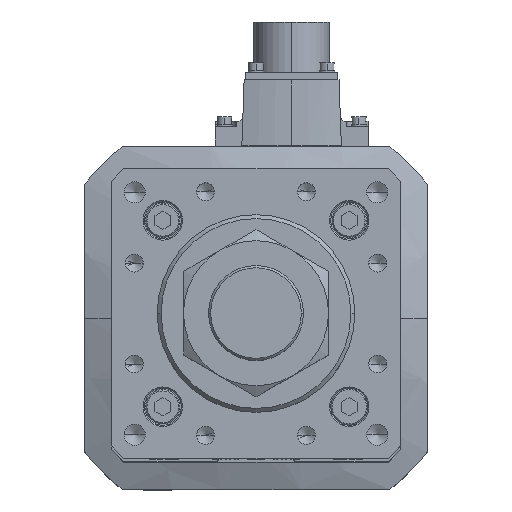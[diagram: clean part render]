
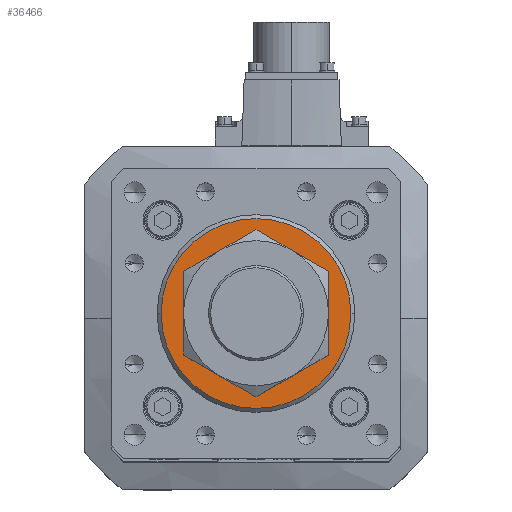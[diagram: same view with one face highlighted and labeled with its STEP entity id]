
A CAD part, top view. The second image highlights one B-rep face of the part: STEP entity #36466.
In plain terms, the highlighted planar face has unit normal (0, 0, 1).
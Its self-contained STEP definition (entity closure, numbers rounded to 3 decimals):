
#1332 = DIRECTION ( 'NONE',  ( 0., 0., 1. ) ) ;
#1584 = CARTESIAN_POINT ( 'NONE',  ( 0., 0., 746. ) ) ;
#2251 = DIRECTION ( 'NONE',  ( 0., 0., 1. ) ) ;
#4315 = VERTEX_POINT ( 'NONE', #14858 ) ;
#4653 = CIRCLE ( 'NONE', #24030, 36. ) ;
#4743 = DIRECTION ( 'NONE',  ( 1., 0., 0. ) ) ;
#4878 = DIRECTION ( 'NONE',  ( 0., 0., -1. ) ) ;
#7404 = DIRECTION ( 'NONE',  ( 1., 0., 0. ) ) ;
#7584 = CARTESIAN_POINT ( 'NONE',  ( 0., 0., 746. ) ) ;
#7668 = CARTESIAN_POINT ( 'NONE',  ( 23., 0., 746. ) ) ;
#8178 = DIRECTION ( 'NONE',  ( 1., 0., 0. ) ) ;
#8360 = EDGE_CURVE ( 'NONE', #11657, #4315, #22595, .T. ) ;
#9832 = AXIS2_PLACEMENT_3D ( 'NONE', #30743, #33387, #35946 ) ;
#11017 = CIRCLE ( 'NONE', #17847, 23. ) ;
#11657 = VERTEX_POINT ( 'NONE', #21497 ) ;
#12478 = EDGE_LOOP ( 'NONE', ( #26699, #23012 ) ) ;
#14153 = FACE_OUTER_BOUND ( 'NONE', #12478, .T. ) ;
#14586 = ORIENTED_EDGE ( 'NONE', *, *, #23966, .T. ) ;
#14858 = CARTESIAN_POINT ( 'NONE',  ( 36., 0., 746. ) ) ;
#15062 = CARTESIAN_POINT ( 'NONE',  ( 0., 0., 746. ) ) ;
#15913 = DIRECTION ( 'NONE',  ( 0., 0., 1. ) ) ;
#17525 = VERTEX_POINT ( 'NONE', #26873 ) ;
#17847 = AXIS2_PLACEMENT_3D ( 'NONE', #7584, #4878, #4743 ) ;
#20023 = FACE_BOUND ( 'NONE', #32261, .T. ) ;
#20565 = CIRCLE ( 'NONE', #9832, 23. ) ;
#20665 = AXIS2_PLACEMENT_3D ( 'NONE', #1584, #15913, #35955 ) ;
#21497 = CARTESIAN_POINT ( 'NONE',  ( -36., 0., 746. ) ) ;
#22275 = VERTEX_POINT ( 'NONE', #7668 ) ;
#22595 = CIRCLE ( 'NONE', #35919, 36. ) ;
#23012 = ORIENTED_EDGE ( 'NONE', *, *, #34393, .T. ) ;
#23101 = EDGE_CURVE ( 'NONE', #17525, #22275, #11017, .T. ) ;
#23442 = ORIENTED_EDGE ( 'NONE', *, *, #23101, .T. ) ;
#23966 = EDGE_CURVE ( 'NONE', #22275, #17525, #20565, .T. ) ;
#24030 = AXIS2_PLACEMENT_3D ( 'NONE', #15062, #2251, #8178 ) ;
#26699 = ORIENTED_EDGE ( 'NONE', *, *, #8360, .T. ) ;
#26873 = CARTESIAN_POINT ( 'NONE',  ( -23., 0., 746. ) ) ;
#30263 = CARTESIAN_POINT ( 'NONE',  ( 0., 0., 746. ) ) ;
#30743 = CARTESIAN_POINT ( 'NONE',  ( 0., 0., 746. ) ) ;
#32261 = EDGE_LOOP ( 'NONE', ( #14586, #23442 ) ) ;
#33387 = DIRECTION ( 'NONE',  ( 0., 0., -1. ) ) ;
#34393 = EDGE_CURVE ( 'NONE', #4315, #11657, #4653, .T. ) ;
#35919 = AXIS2_PLACEMENT_3D ( 'NONE', #30263, #1332, #7404 ) ;
#35946 = DIRECTION ( 'NONE',  ( 1., 0., 0. ) ) ;
#35955 = DIRECTION ( 'NONE',  ( 1., 0., 0. ) ) ;
#36089 = PLANE ( 'NONE',  #20665 ) ;
#36466 = ADVANCED_FACE ( 'NONE', ( #20023, #14153 ), #36089, .T. ) ;
